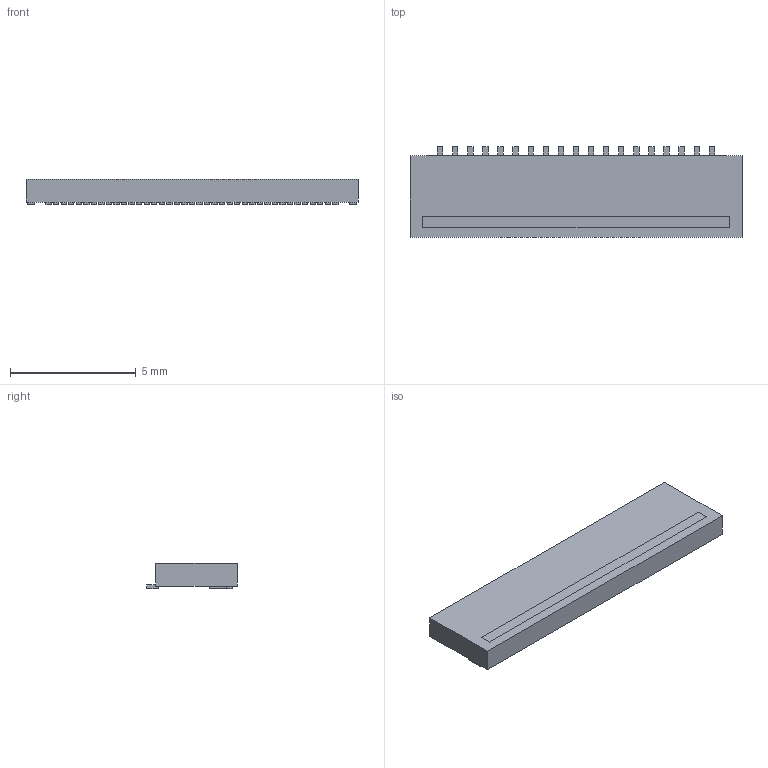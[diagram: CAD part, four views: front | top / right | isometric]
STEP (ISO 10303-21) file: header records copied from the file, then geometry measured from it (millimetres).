
FILE_DESCRIPTION(('Open CASCADE Model'),'2;1');
FILE_NAME('Open CASCADE Shape Model','2026-10-19T06:28:21',('Author'),( 'Open CASCADE'),'Open CASCADE STEP processor 7.8','Open CASCADE 7.8' ,'Unknown');
FILE_SCHEMA(('AUTOMOTIVE_DESIGN { 1 0 10303 214 1 1 1 1 }'));
Length unit declared in the file: millimetre
Products named in the file (44): FH26-39S-0.3SHW; Housing_nominal; Latch_nominal; Contact_1; Contact_2; Contact_3; Contact_4; Contact_5; Contact_6; Contact_7; Contact_8; Contact_9; Contact_10; Contact_11; Contact_12; Contact_13; Contact_14; Contact_15; Contact_16; Contact_17; Contact_18; Contact_19; Contact_20; Contact_21; Contact_22; Contact_23; Contact_24; Contact_25; Contact_26; Contact_27; Contact_28; Contact_29; Contact_30; Contact_31; Contact_32; Contact_33; Contact_34; Contact_35; Contact_36; Contact_37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
Assembly tree (43 placements, depth 2):
  FH26-39S-0.3SHW
    Housing_nominal
    Latch_nominal
    Contact_1
    Contact_2
    Contact_3
    Contact_4
    Contact_5
    Contact_6
    Contact_7
    Contact_8
    Contact_9
    Contact_10
    Contact_11
    Contact_12
    Contact_13
    Contact_14
    Contact_15
    Contact_16
    Contact_17
    Contact_18
    Contact_19
    Contact_20
    Contact_21
    Contact_22
    Contact_23
    Contact_24
    Contact_25
    Contact_26
    Contact_27
    Contact_28
    Contact_29
    Contact_30
    Contact_31
    Contact_32
    Contact_33
    Contact_34
    Contact_35
    Contact_36
    Contact_37
    Contact_38
    Contact_39
    Contact_MP_39
    Contact_MP_40
Bounding box: 13.2 x 3.61 x 1 mm (x, y, z)
Volume: 39 mm3; surface area: 162.8 mm2
Topology: 43 solids, 43 shells, 263 faces, 528 edges, 352 vertices
Faces by surface type: plane 263
Entity records: 14585 total; most frequent: CARTESIAN_POINT 2251, DIRECTION 2190, LINE 1576, VECTOR 1576, ORIENTED_EDGE 1056, PCURVE 1056, DEFINITIONAL_REPRESENTATION 1056, EDGE_CURVE 528
